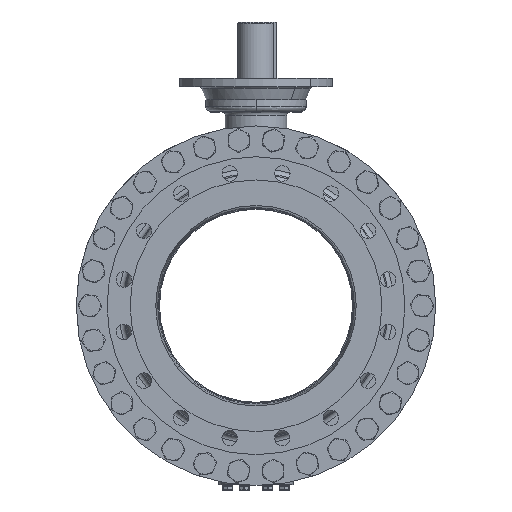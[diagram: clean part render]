
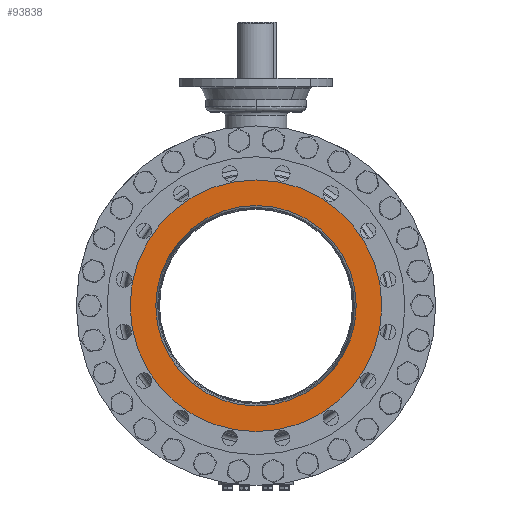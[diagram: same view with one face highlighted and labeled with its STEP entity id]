
A CAD part, left-side view. The second image highlights one B-rep face of the part: STEP entity #93838.
In plain terms, the highlighted planar face has unit normal (-1, 0, 0).
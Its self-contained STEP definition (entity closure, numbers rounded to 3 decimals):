
#16270=CARTESIAN_POINT('',(-381.,0.,0.));
#16271=DIRECTION('',(1.,0.,0.));
#16272=DIRECTION('',(0.,0.,1.));
#16273=AXIS2_PLACEMENT_3D('',#16270,#16271,#16272);
#16275=CARTESIAN_POINT('',(-381.,0.,0.));
#16276=DIRECTION('',(1.,0.,0.));
#16277=DIRECTION('',(0.,0.,-1.));
#16278=AXIS2_PLACEMENT_3D('',#16275,#16276,#16277);
#16280=CARTESIAN_POINT('',(-381.,0.,0.));
#16281=DIRECTION('',(1.,0.,0.));
#16282=DIRECTION('',(0.,0.,1.));
#16283=AXIS2_PLACEMENT_3D('',#16280,#16281,#16282);
#16285=CARTESIAN_POINT('',(-381.,0.,0.));
#16286=DIRECTION('',(-1.,0.,0.));
#16287=DIRECTION('',(0.,0.,1.));
#16288=AXIS2_PLACEMENT_3D('',#16285,#16286,#16287);
#63965=CARTESIAN_POINT('',(-381.,0.,195.2));
#63967=VERTEX_POINT('',#63965);
#63969=CARTESIAN_POINT('',(-381.,0.,-195.2));
#63971=VERTEX_POINT('',#63969);
#64000=CARTESIAN_POINT('',(-381.,0.,245.));
#64001=CARTESIAN_POINT('',(-381.,0.,-245.));
#64002=VERTEX_POINT('',#64000);
#64003=VERTEX_POINT('',#64001);
#93823=CARTESIAN_POINT('',(-381.,0.,0.));
#93824=DIRECTION('',(-1.,0.,0.));
#93825=DIRECTION('',(0.,0.,-1.));
#93826=AXIS2_PLACEMENT_3D('',#93823,#93824,#93825);
#93827=PLANE('',#93826);
#93829=ORIENTED_EDGE('',*,*,#93828,.T.);
#93831=ORIENTED_EDGE('',*,*,#93830,.T.);
#93832=EDGE_LOOP('',(#93829,#93831));
#93833=FACE_OUTER_BOUND('',#93832,.F.);
#93834=ORIENTED_EDGE('',*,*,#93802,.F.);
#93835=ORIENTED_EDGE('',*,*,#93818,.T.);
#93836=EDGE_LOOP('',(#93834,#93835));
#93837=FACE_BOUND('',#93836,.F.);
#93838=ADVANCED_FACE('',(#93833,#93837),#93827,.T.);
#16274=CIRCLE('',#16273,245.);
#16279=CIRCLE('',#16278,245.);
#16284=CIRCLE('',#16283,195.2);
#16289=CIRCLE('',#16288,195.2);
#93802=EDGE_CURVE('',#63967,#63971,#16284,.T.);
#93818=EDGE_CURVE('',#63967,#63971,#16289,.T.);
#93828=EDGE_CURVE('',#64002,#64003,#16274,.T.);
#93830=EDGE_CURVE('',#64003,#64002,#16279,.T.);
